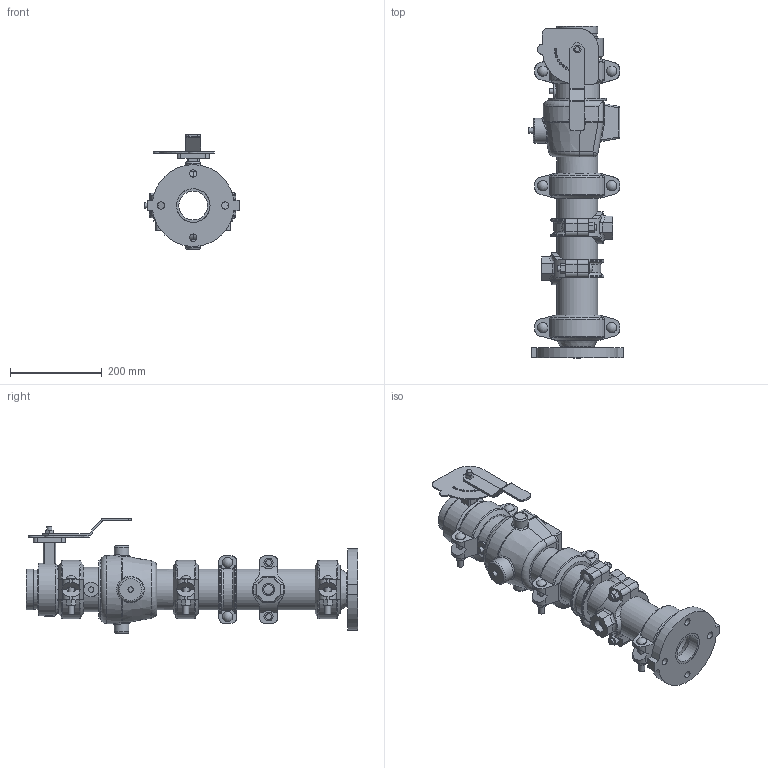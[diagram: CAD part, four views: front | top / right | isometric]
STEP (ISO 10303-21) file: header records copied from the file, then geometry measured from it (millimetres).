
FILE_DESCRIPTION(/* description */ ('VIC DVI PUMP DROP VERT S/380 (OGSxFLG)','CAx-IF Rec.Pracs.---Representation and Presentation of Product Manufacturing Information (PMI)---4.0---2014-10-13'),/* implementation_level */ '2;1');
FILE_NAME(/* name */ 'C:\Users\Public\Documents\Victaulic.Temp\A765\Victaulic_IPS_Vertical DVI_CL 150_Series 380 (OGSxFLG)_03.0x02.5 (80x65).stp',/* time_stamp */ '2022-07-25T11:10:14+02:00',/* author */ ('Vjadhav'),/* organization */ ('Victaulic'),/* preprocessor_version */ 'ST-DEVELOPER v18',/* originating_system */ 'Autodesk Inventor 2020',/* authorisation */ '');
FILE_SCHEMA (('AP242_MANAGED_MODEL_BASED_3D_ENGINEERING_MIM_LF { 1 0 10303 442 1 1 4 }'));
Length unit declared in the file: inch
Products named in the file (10): 380-03.0x02.5; 741-02.5; 050-03.0x02.5; Pipe-03.0; 716H-03.0; 177N-03.0; 761-03.0; 920NT-03.0x0.75; 920N LOWER HSG-03.0; 920NT-03.0x0.75_1
Assembly tree (12 placements, depth 3):
  380-03.0x02.5
    741-02.5
    050-03.0x02.5
    177N-03.0  x3
    Pipe-03.0
    716H-03.0
    761-03.0
    920NT-03.0x0.75  x2
      920N LOWER HSG-03.0
      920NT-03.0x0.75_1
Bounding box: 205.49 x 722.33 x 249.43 mm (x, y, z)
Volume: 4823045.2 mm3; surface area: 902955.6 mm2
Topology: 12 solids, 13 shells, 755 faces, 1987 edges, 1308 vertices
Faces by surface type: plane 387, cylinder 266, torus 35, bspline 35, cone 16, sphere 16
Full cylindrical faces by diameter (mm): 4.826 x10, 8.636 x4, 10.922 x2, 11.43 x2, 12.7 x14, 15.875 x4, 20.93 x2, 21.982 x4, 22.225 x6, 22.86 x1, 26.924 x2, 31.75 x2, 32.004 x1, 53.975 x1, 55.118 x1, 62.713 x1, 69.088 x1, 73.025 x3, 76.2 x3, 77.927 x3, 80.772 x1, 84.938 x7, 88.9 x18, 97.028 x1, 114.3 x1, 127 x1
Entity records: 16730 total; most frequent: CARTESIAN_POINT 4251, DIRECTION 2513, ORIENTED_EDGE 2388, EDGE_CURVE 1194, AXIS2_PLACEMENT_3D 969, VERTEX_POINT 784, LINE 575, VECTOR 575
